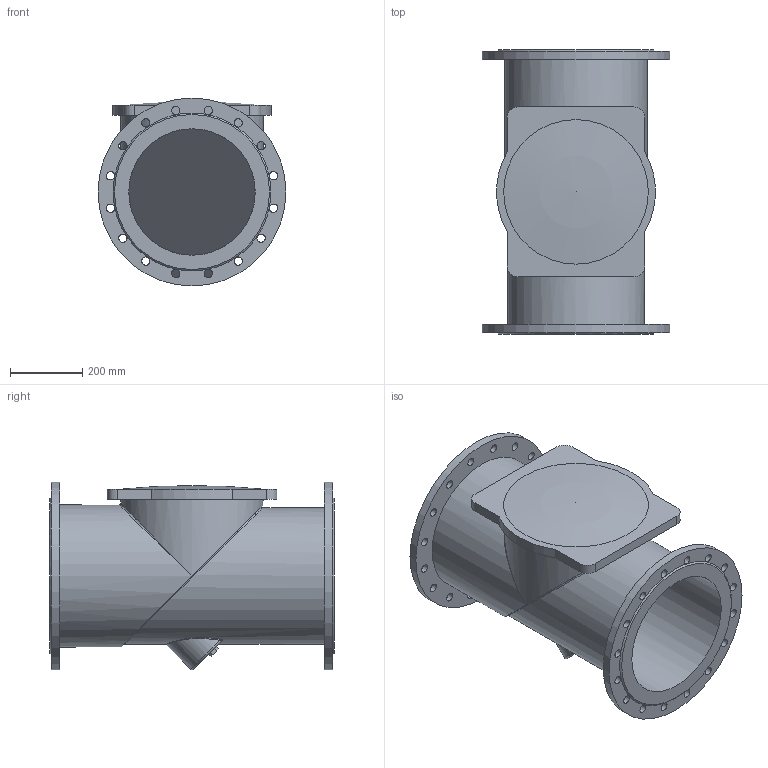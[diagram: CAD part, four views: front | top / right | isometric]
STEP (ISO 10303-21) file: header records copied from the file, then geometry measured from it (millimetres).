
FILE_DESCRIPTION(('STEP AP203'), '1');
FILE_NAME('Êëàïàí îäíîñòâîð÷àòûé îáðàòíûé ôëàíöåâûé 015F.Z DN350 PN10', '', ('UNSPECIFIED'), ('UNSPECIFIED'), 'ASCON STEP Converter 1.6', 'ASCON Math Kernel', '');
FILE_SCHEMA(('CONFIG_CONTROL_DESIGN'));
Length unit declared in the file: millimetre
Bounding box: 520 x 787 x 520 mm (x, y, z)
Volume: 31256499.8 mm3; surface area: 2881436.7 mm2
Topology: 1 solids, 2 shells, 86 faces, 263 edges, 162 vertices
Faces by surface type: cylinder 49, plane 27, bspline 6, cone 2, torus 1, sphere 1
Full cylindrical faces by diameter (mm): 23 x32, 350 x2, 365 x1, 378 x1, 393 x2, 520 x2
Entity records: 5219 total; most frequent: CARTESIAN_POINT 2112, DIRECTION 506, ORIENTED_EDGE 432, AXIS2_PLACEMENT_3D 232, EDGE_CURVE 216, EDGE_LOOP 205, VERTEX_POINT 161, CIRCLE 151
